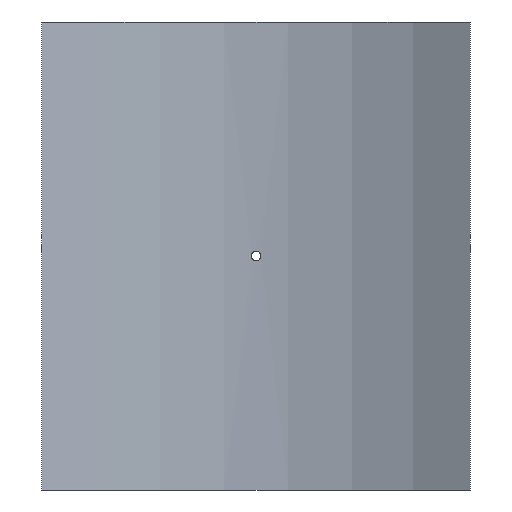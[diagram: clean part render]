
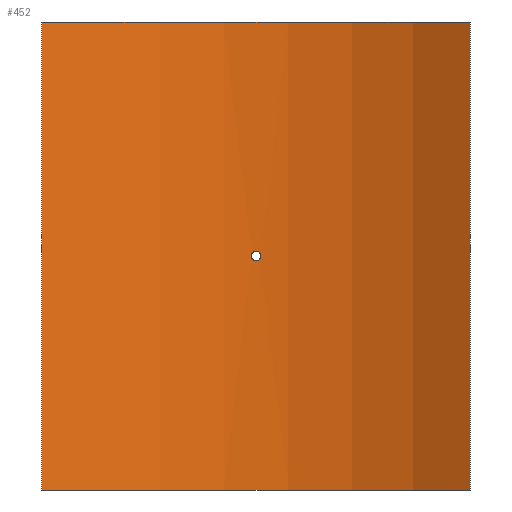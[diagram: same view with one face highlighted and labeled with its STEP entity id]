
A CAD part, front view. The second image highlights one B-rep face of the part: STEP entity #452.
In plain terms, the highlighted cylindrical face has radius 400 mm (diameter 800 mm), a partial arc.
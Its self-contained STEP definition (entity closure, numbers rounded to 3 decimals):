
#19=B_SPLINE_CURVE_WITH_KNOTS('',3,(#788,#789,#790,#791,#792,#793,#794,
#795,#796,#797,#798,#799,#800,#801,#802,#803,#804,#805,#806,#807,#808,#809,
#810,#811,#812,#813,#814,#815,#816,#817,#818,#819,#820,#821),
 .UNSPECIFIED.,.T.,.F.,(4,2,2,2,2,2,2,2,2,2,2,2,2,2,2,2,4),(0.,0.181,
0.362,0.542,0.723,0.904,1.085,
1.266,1.446,1.627,1.808,1.989,
2.17,2.351,2.531,2.712,2.893),
 .UNSPECIFIED.);
#43=LINE('',#1065,#62);
#44=LINE('',#1068,#63);
#62=VECTOR('',#661,10.);
#63=VECTOR('',#664,10.);
#76=CYLINDRICAL_SURFACE('',#530,400.);
#88=FACE_BOUND('',#167,.T.);
#127=FACE_OUTER_BOUND('',#166,.T.);
#166=EDGE_LOOP('',(#405,#406,#407,#408));
#167=EDGE_LOOP('',(#409));
#201=CIRCLE('',#529,400.);
#202=CIRCLE('',#531,400.);
#219=VERTEX_POINT('',#786);
#242=VERTEX_POINT('',#1058);
#243=VERTEX_POINT('',#1060);
#244=VERTEX_POINT('',#1064);
#245=VERTEX_POINT('',#1066);
#267=EDGE_CURVE('',#219,#219,#19,.T.);
#299=EDGE_CURVE('',#242,#243,#201,.T.);
#301=EDGE_CURVE('',#244,#242,#43,.T.);
#302=EDGE_CURVE('',#245,#244,#202,.T.);
#303=EDGE_CURVE('',#245,#243,#44,.T.);
#405=ORIENTED_EDGE('',*,*,#301,.F.);
#406=ORIENTED_EDGE('',*,*,#302,.F.);
#407=ORIENTED_EDGE('',*,*,#303,.T.);
#408=ORIENTED_EDGE('',*,*,#299,.F.);
#409=ORIENTED_EDGE('',*,*,#267,.T.);
#452=ADVANCED_FACE('',(#127,#88),#76,.F.);
#529=AXIS2_PLACEMENT_3D('',#1061,#656,#657);
#530=AXIS2_PLACEMENT_3D('',#1063,#659,#660);
#531=AXIS2_PLACEMENT_3D('',#1067,#662,#663);
#656=DIRECTION('center_axis',(0.,0.,1.));
#657=DIRECTION('ref_axis',(0.537,0.843,0.));
#659=DIRECTION('center_axis',(0.,0.,1.));
#660=DIRECTION('ref_axis',(0.537,0.843,0.));
#661=DIRECTION('',(0.,0.,-1.));
#662=DIRECTION('center_axis',(0.,0.,-1.));
#663=DIRECTION('ref_axis',(0.537,0.843,0.));
#664=DIRECTION('',(0.,0.,-1.));
#786=CARTESIAN_POINT('',(4.8,399.971,0.));
#788=CARTESIAN_POINT('Ctrl Pts',(4.8,399.971,0.));
#789=CARTESIAN_POINT('Ctrl Pts',(4.8,399.971,-0.603));
#790=CARTESIAN_POINT('Ctrl Pts',(4.68,399.973,-1.246));
#791=CARTESIAN_POINT('Ctrl Pts',(4.19,399.978,-2.428));
#792=CARTESIAN_POINT('Ctrl Pts',(3.82,399.982,-2.968));
#793=CARTESIAN_POINT('Ctrl Pts',(2.968,399.989,-3.82));
#794=CARTESIAN_POINT('Ctrl Pts',(2.428,399.993,-4.19));
#795=CARTESIAN_POINT('Ctrl Pts',(1.246,399.998,-4.68));
#796=CARTESIAN_POINT('Ctrl Pts',(0.603,400.,-4.8));
#797=CARTESIAN_POINT('Ctrl Pts',(-0.603,400.,-4.8));
#798=CARTESIAN_POINT('Ctrl Pts',(-1.246,399.998,-4.68));
#799=CARTESIAN_POINT('Ctrl Pts',(-2.428,399.993,-4.19));
#800=CARTESIAN_POINT('Ctrl Pts',(-2.968,399.989,-3.82));
#801=CARTESIAN_POINT('Ctrl Pts',(-3.82,399.982,-2.968));
#802=CARTESIAN_POINT('Ctrl Pts',(-4.19,399.978,-2.428));
#803=CARTESIAN_POINT('Ctrl Pts',(-4.68,399.973,-1.246));
#804=CARTESIAN_POINT('Ctrl Pts',(-4.8,399.971,-0.603));
#805=CARTESIAN_POINT('Ctrl Pts',(-4.8,399.971,0.603));
#806=CARTESIAN_POINT('Ctrl Pts',(-4.68,399.973,1.246));
#807=CARTESIAN_POINT('Ctrl Pts',(-4.19,399.978,2.428));
#808=CARTESIAN_POINT('Ctrl Pts',(-3.82,399.982,2.968));
#809=CARTESIAN_POINT('Ctrl Pts',(-2.968,399.989,3.82));
#810=CARTESIAN_POINT('Ctrl Pts',(-2.428,399.993,4.19));
#811=CARTESIAN_POINT('Ctrl Pts',(-1.246,399.998,4.68));
#812=CARTESIAN_POINT('Ctrl Pts',(-0.603,400.,4.8));
#813=CARTESIAN_POINT('Ctrl Pts',(0.603,400.,4.8));
#814=CARTESIAN_POINT('Ctrl Pts',(1.246,399.998,4.68));
#815=CARTESIAN_POINT('Ctrl Pts',(2.428,399.993,4.19));
#816=CARTESIAN_POINT('Ctrl Pts',(2.968,399.989,3.82));
#817=CARTESIAN_POINT('Ctrl Pts',(3.82,399.982,2.968));
#818=CARTESIAN_POINT('Ctrl Pts',(4.19,399.978,2.428));
#819=CARTESIAN_POINT('Ctrl Pts',(4.68,399.973,1.246));
#820=CARTESIAN_POINT('Ctrl Pts',(4.8,399.971,0.603));
#821=CARTESIAN_POINT('Ctrl Pts',(4.8,399.971,0.));
#1058=CARTESIAN_POINT('',(215.,337.305,-235.));
#1060=CARTESIAN_POINT('',(-215.,337.305,-235.));
#1061=CARTESIAN_POINT('Origin',(0.,0.,
-235.));
#1063=CARTESIAN_POINT('Origin',(0.,0.,
0.));
#1064=CARTESIAN_POINT('',(215.,337.305,235.));
#1065=CARTESIAN_POINT('',(215.,337.305,0.));
#1066=CARTESIAN_POINT('',(-215.,337.305,235.));
#1067=CARTESIAN_POINT('Origin',(0.,0.,
235.));
#1068=CARTESIAN_POINT('',(-215.,337.305,0.));
